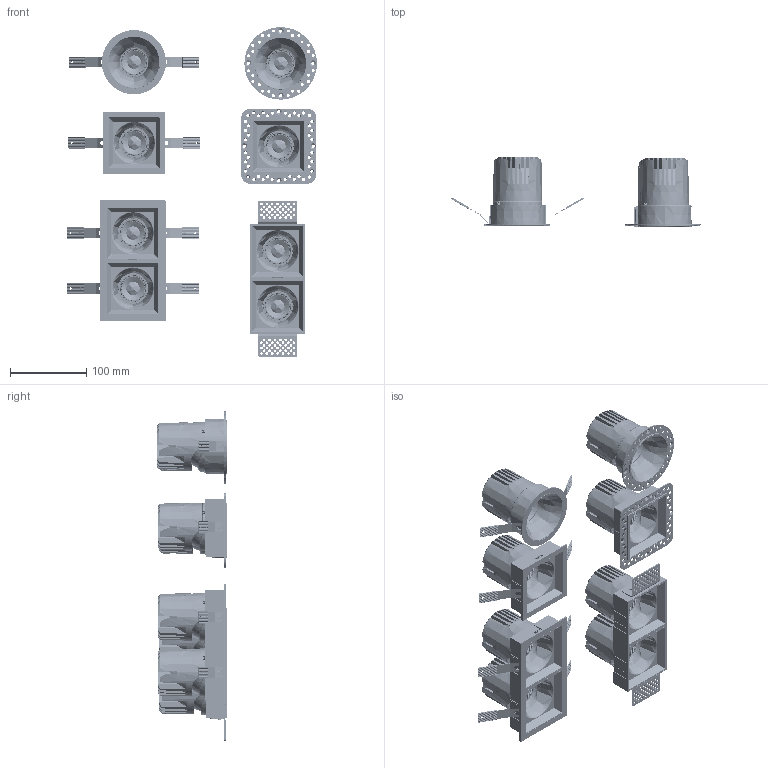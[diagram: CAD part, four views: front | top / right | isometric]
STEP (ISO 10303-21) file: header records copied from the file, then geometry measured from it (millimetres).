
FILE_DESCRIPTION (( 'STEP AP203' ), '1' );
FILE_NAME ('热破-75 -所有装配图.STEP', '2024-12-19T06:28:20', ( 'Windows' ), ( 'Microsoft' ), 'SwSTEP 2.0', 'SolidWorks 2024', '' );
FILE_SCHEMA (( 'CONFIG_CONTROL_DESIGN' ));
Products named in the file (33): ______2__-______ -____; 热破-75 -所有装配图(2); 热破-75 -所有装配图; M3X12_________1; MANIFOLD_SOLID_BREP_72; M3X5___________1; M3X5____________; M3X5________ - ____; ______2__-______-3; 75-SHUANGTOU-1; ______2__-75 -__________; 75F-WB-G0921-1; 75-WB-Y-0721; ______2__-____ -____; ______2__-75-__________; QTZ-75-0; ______2______; 1200001_1; 3x6_____1; ____-QTZ-68____________; M3X5_________1; ______2__-75 -____; ______2__-______-________; MANIFOLD_SOLID_BREP_70; ______2__-75 -______________; ______2__-75____; ______2__-____; ______2__-75____-1; ______2__-75 -________; 75-YB-F-0721; ______2__-____-0; 750009; HY-V______
Assembly tree (94 placements, depth 5):
  热破-75 -所有装配图
    热破-75 -所有装配图(2)
      ______2__-75 -____
        ______2__-75____
          ______2__-____
          ______2__-____-0
          MANIFOLD_SOLID_BREP_72
          MANIFOLD_SOLID_BREP_70
          M3X5___________1  x2
          ______2______
          ______2__-______ -____
          ______2__-______-3
          ______2__-______-________
          M3X5________ - ____  x2
          M3X5_________1  x2
          M3X12_________1
        75-YB-F-0721
        3x6_____1  x2
        QTZ-75-0
        HY-V______  x2
      ______2__-75 -________
        ______2__-75____  x2
          ______2__-____
          ______2__-____-0
          MANIFOLD_SOLID_BREP_72
          MANIFOLD_SOLID_BREP_70
          M3X5___________1
          ______2______
          ______2__-______ -____
          ______2__-______-3
          ______2__-______-________
          M3X5________ - ____
          M3X5_________1
          M3X12_________1
        3x6_____1  x4
        QTZ-75-0  x2
        75-SHUANGTOU-1
        HY-V______  x4
      ______2__-75 -______________
        ______2__-75____  x2
          ______2__-____
          ______2__-____-0
          MANIFOLD_SOLID_BREP_72
          MANIFOLD_SOLID_BREP_70
          M3X5___________1
          ______2______
          ______2__-______ -____
          ______2__-______-3
          ______2__-______-________
          M3X5________ - ____
          M3X5_________1
          M3X12_________1
        QTZ-75-0  x2
        M3X5____________  x4
        750009
        1200001_1  x2
      ______2__-75 -__________
        ______2__-75____-1
          ____-QTZ-68____________
          ______2__-____
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Bounding box: 327.1 x 91.9 x 431.65 mm (x, y, z)
Volume: 989705.9 mm3; surface area: 881714.1 mm2
Topology: 156 solids, 156 shells, 28497 faces, 81841 edges, 53830 vertices
Faces by surface type: plane 10178, bspline 7075, cone 6230, cylinder 4343, sphere 448, torus 223
Entity records: 242588 total; most frequent: CARTESIAN_POINT 114340, ORIENTED_EDGE 29800, DIRECTION 21077, EDGE_CURVE 14900, VERTEX_POINT 9757, AXIS2_PLACEMENT_3D 8205, EDGE_LOOP 5637, ADVANCED_FACE 5235
